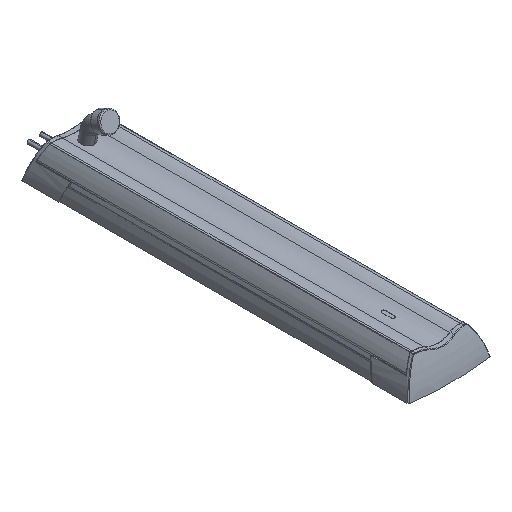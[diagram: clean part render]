
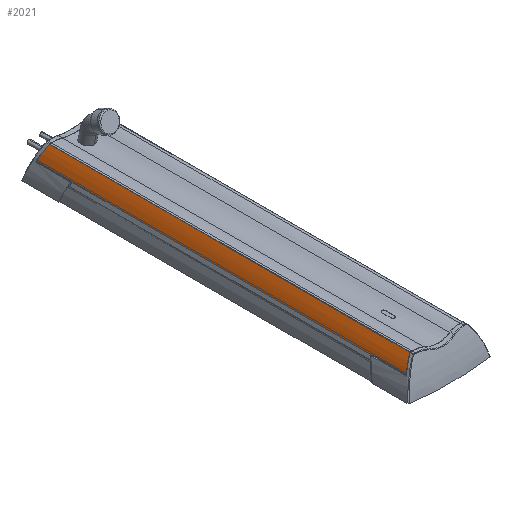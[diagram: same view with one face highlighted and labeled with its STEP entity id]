
A CAD part, isometric view. The second image highlights one B-rep face of the part: STEP entity #2021.
In plain terms, the highlighted cylindrical face has radius 199.92 mm (diameter 399.839 mm), a partial arc.
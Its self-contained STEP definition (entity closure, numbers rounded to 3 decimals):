
#1 = CARTESIAN_POINT ( 'NONE',  ( -83.079, -514.745, 97.139 ) ) ;
#83 = CYLINDRICAL_SURFACE ( 'NONE', #3836, 199.92 ) ;
#138 = VERTEX_POINT ( 'NONE', #4134 ) ;
#397 = EDGE_LOOP ( 'NONE', ( #2682, #1529, #1629, #1206 ) ) ;
#433 = CARTESIAN_POINT ( 'NONE',  ( -83.079, -514.745, 97.139 ) ) ;
#446 = VECTOR ( 'NONE', #2865, 1000. ) ;
#669 = CARTESIAN_POINT ( 'NONE',  ( 70.5, -645.908, -30.851 ) ) ;
#801 = CARTESIAN_POINT ( 'NONE',  ( -102.538, 633.086, 70.624 ) ) ;
#1139 = EDGE_CURVE ( 'NONE', #138, #3524, #2809, .T. ) ;
#1142 = CARTESIAN_POINT ( 'NONE',  ( -93.627, -519.594, 84.482 ) ) ;
#1162 = CARTESIAN_POINT ( 'NONE',  ( -102.538, -524.903, 70.624 ) ) ;
#1170 = CARTESIAN_POINT ( 'NONE',  ( -83.079, 622.929, 97.139 ) ) ;
#1206 = ORIENTED_EDGE ( 'NONE', *, *, #1139, .F. ) ;
#1360 = DIRECTION ( 'NONE',  ( 1., 0., 0. ) ) ;
#1529 = ORIENTED_EDGE ( 'NONE', *, *, #4656, .T. ) ;
#1629 = ORIENTED_EDGE ( 'NONE', *, *, #3036, .F. ) ;
#1787 = VECTOR ( 'NONE', #3415, 1000. ) ;
#1928 = CARTESIAN_POINT ( 'NONE',  ( -109.677, 638.775, 55.775 ) ) ;
#2021 = ADVANCED_FACE ( 'NONE', ( #3091 ), #83, .T. ) ;
#2083 = CARTESIAN_POINT ( 'NONE',  ( -83.079, -645.908, 97.139 ) ) ;
#2574 = EDGE_CURVE ( 'NONE', #3845, #138, #3832, .T. ) ;
#2682 = ORIENTED_EDGE ( 'NONE', *, *, #2574, .F. ) ;
#2809 = LINE ( 'NONE', #4177, #1787 ) ;
#2865 = DIRECTION ( 'NONE',  ( 0., 1., 0. ) ) ;
#2915 = DIRECTION ( 'NONE',  ( 0., 1., 0. ) ) ;
#3036 = EDGE_CURVE ( 'NONE', #3524, #3593, #4105, .T. ) ;
#3091 = FACE_OUTER_BOUND ( 'NONE', #397, .T. ) ;
#3415 = DIRECTION ( 'NONE',  ( 0., 1., 0. ) ) ;
#3450 = CARTESIAN_POINT ( 'NONE',  ( -93.627, 627.777, 84.482 ) ) ;
#3521 = CARTESIAN_POINT ( 'NONE',  ( -109.677, 638.775, 55.775 ) ) ;
#3524 = VERTEX_POINT ( 'NONE', #3521 ) ;
#3593 = VERTEX_POINT ( 'NONE', #4333 ) ;
#3832 =( BOUNDED_CURVE ( )  B_SPLINE_CURVE ( 3, ( #433, #1142, #1162, #3834 ),
 .UNSPECIFIED., .F., .F. ) 
 B_SPLINE_CURVE_WITH_KNOTS ( ( 4, 4 ),
 ( 0.876, 1.123 ),
 .UNSPECIFIED. ) 
 CURVE ( )  GEOMETRIC_REPRESENTATION_ITEM ( )  RATIONAL_B_SPLINE_CURVE ( ( 1., 0.995, 0.995, 1. ) ) 
 REPRESENTATION_ITEM ( '' )  );
#3834 = CARTESIAN_POINT ( 'NONE',  ( -109.677, -530.592, 55.775 ) ) ;
#3836 = AXIS2_PLACEMENT_3D ( 'NONE', #669, #2915, #1360 ) ;
#3845 = VERTEX_POINT ( 'NONE', #1 ) ;
#4105 =( BOUNDED_CURVE ( )  B_SPLINE_CURVE ( 3, ( #1928, #801, #3450, #1170 ),
 .UNSPECIFIED., .F., .T. ) 
 B_SPLINE_CURVE_WITH_KNOTS ( ( 4, 4 ),
 ( 2.019, 2.266 ),
 .UNSPECIFIED. ) 
 CURVE ( )  GEOMETRIC_REPRESENTATION_ITEM ( )  RATIONAL_B_SPLINE_CURVE ( ( 1., 0.995, 0.995, 1. ) ) 
 REPRESENTATION_ITEM ( '' )  );
#4134 = CARTESIAN_POINT ( 'NONE',  ( -109.677, -530.592, 55.775 ) ) ;
#4177 = CARTESIAN_POINT ( 'NONE',  ( -109.677, -645.908, 55.775 ) ) ;
#4333 = CARTESIAN_POINT ( 'NONE',  ( -83.079, 622.929, 97.139 ) ) ;
#4463 = LINE ( 'NONE', #2083, #446 ) ;
#4656 = EDGE_CURVE ( 'NONE', #3845, #3593, #4463, .T. ) ;
